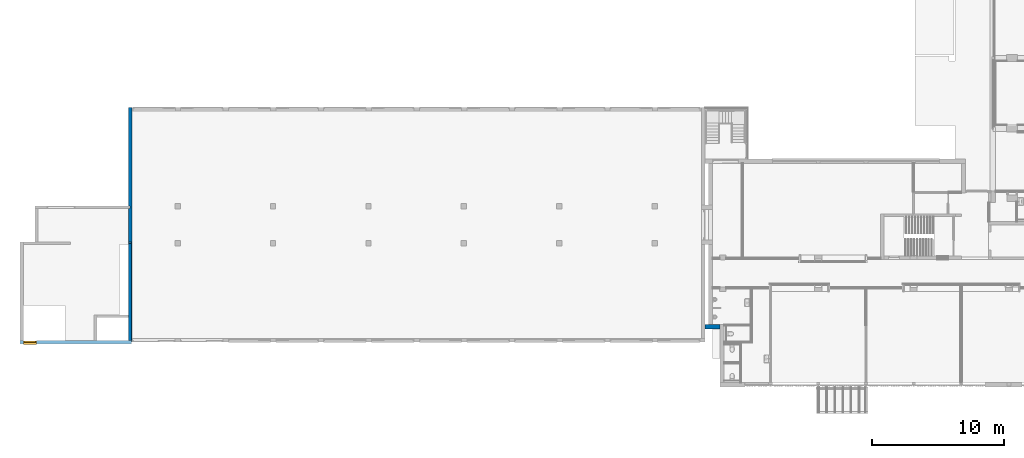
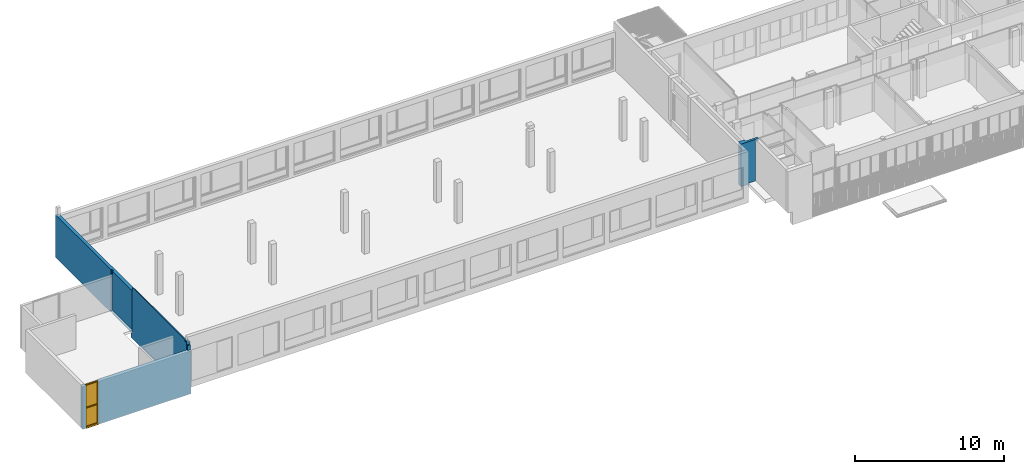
# One storey, part 49 of 117: 3 walls, 1 window, 1 opening, plus 1 element that does not belong to this part.
"""IFC2X3 building model written with IfcOpenShell, lengths in millimetres."""

from ifc_helpers import new_model, entity, si_unit, converted_unit, derived_unit, money_unit, direction, frame, origin_with_axes, place, context, subcontext, project, spatial, open_shell, faceted_brep, surface_model, material, type_object, element, fill, save


model = new_model("IFC2X3")

# Units and contexts
model_context = context("Model", 3, precision=0.01, world=origin_with_axes(), true_north=direction((0.0, 1.0)))
body_context = subcontext(model_context, "Body", "Model", "MODEL_VIEW")
ifc_project = project(units=[si_unit("LENGTHUNIT", "METRE", prefix="MILLI"), si_unit("AREAUNIT", "SQUARE_METRE"), si_unit("VOLUMEUNIT", "CUBIC_METRE"), converted_unit("PLANEANGLEUNIT", "DEGREE", entity("IfcPlaneAngleMeasure", 0.0174532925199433), si_unit("PLANEANGLEUNIT", "RADIAN"), dimensions=[0, 0, 0, 0, 0, 0, 0]), money_unit("EUR"), converted_unit("TIMEUNIT", "Year", entity("IfcTimeMeasure", 31557600.0), si_unit("TIMEUNIT", "SECOND"), dimensions=[0, 0, 1, 0, 0, 0, 0]), si_unit("MASSUNIT", "GRAM", prefix="KILO"), si_unit("THERMODYNAMICTEMPERATUREUNIT", "DEGREE_CELSIUS"), si_unit("LUMINOUSINTENSITYUNIT", "LUMEN"), si_unit("ENERGYUNIT", "JOULE", prefix="MEGA"), derived_unit("THERMALCONDUCTANCEUNIT", [(si_unit("POWERUNIT", "WATT"), 1), (si_unit("LENGTHUNIT", "METRE"), -1), (si_unit("THERMODYNAMICTEMPERATUREUNIT", "KELVIN"), -1)]), derived_unit("SPECIFICHEATCAPACITYUNIT", [(si_unit("ENERGYUNIT", "JOULE"), 1), (si_unit("MASSUNIT", "GRAM", prefix="KILO"), -1), (si_unit("THERMODYNAMICTEMPERATUREUNIT", "KELVIN"), -1)]), derived_unit("MASSDENSITYUNIT", [(si_unit("MASSUNIT", "GRAM", prefix="KILO"), 1), (si_unit("VOLUMEUNIT", "CUBIC_METRE"), -1)])], contexts=[model_context])

# Site, building, storey
site_placement = place(None, origin_with_axes())
site = spatial("IfcSite", under=ifc_project, at=site_placement, Name="Site", CompositionType="ELEMENT")
building_placement = place(site_placement, origin_with_axes())
building = spatial("IfcBuilding", under=site, at=building_placement, Name="Naam gebouw", CompositionType="ELEMENT")
storey_placement = place(building_placement, frame((0.0, 0.0, 4150.0), z_axis=(0.0, 0.0, 1.0), x_axis=(1.0, 0.0, 0.0)))
storey = spatial("IfcBuildingStorey", under=building, at=storey_placement, Name="1e verdieping N", CompositionType="ELEMENT", Elevation=4150.0)

# Walls
ifc_material = material(Name="ALG - CONSTRUCTIEF")
wall_type_1 = type_object("IfcWallType", Name="ALG - CONSTRUCTIEF 200", PredefinedType="NOTDEFINED")
wall_1_placement = place(storey_placement, frame((-44749.99999999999, 6365.575024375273, -1200.0), z_axis=(0.0, 0.0, 1.0), x_axis=(0.0, 1.0, 0.0)))
element("IfcWall", 1, at=wall_1_placement, inside=storey, type_object=wall_type_1, material=ifc_material, Name="_Wand-x", context=body_context, shape_type="Brep", body=[
    faceted_brep([(7599.99999997, 100.0000000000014, 720.0000000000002), (7599.99999997, 100.0000000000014, 4040.0), (7599.99999997, -100.0000000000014, 4040.0), (7599.99999997, -100.0000000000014, 720.0000000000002), (7500.000034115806, 100.0000000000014, 4220.0), (7500.000012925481, 100.0000000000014, 4040.0), (7500.000000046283, 100.0000000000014, 720.0000000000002), (7500.000000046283, 100.0000000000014, 520.0), (7699.99999997, 100.0000000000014, 520.0), (7699.99999997, 100.0000000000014, 0.0), (250.0, 100.0000000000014, 0.0), (250.0, 100.0000000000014, 4220.0), (399.9647694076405, 100.0000000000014, 4220.0), (399.964769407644, 100.0000000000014, 4040.0), (443.9191925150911, 100.0000000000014, 4040.0), (443.9191925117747, 100.0000000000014, 4220.0), (399.9650091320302, -100.0000000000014, 4040.0), (7500.000013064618, 94.6057256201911, 4040.0), (399.9650091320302, -100.0000000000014, 4220.0), (250.0, -100.0000000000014, 4220.0), (250.0, -100.0000000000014, 3500.0), (250.0, -100.0000000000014, 719.9999999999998), (250.0, -100.0000000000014, 0.0), (7699.99999997, -100.0000000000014, 0.0), (7699.99999997, -100.0000000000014, 520.0), (7500.000000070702, -100.0000000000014, 520.0), (7500.000000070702, -100.0000000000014, 720.0000000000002), (7500.000013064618, 94.6057256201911, 4220.0)], [[[0, 1, 2, 3]], [[4, 5, 1, 0, 6, 7, 8, 9, 10, 11, 12, 13, 14, 15]], [[13, 16, 2, 1, 5, 17, 14]], [[2, 16, 18, 19, 20, 21, 22, 23, 24, 25, 26, 3]], [[6, 0, 3, 26]], [[5, 4, 27, 17]], [[6, 26, 25, 7]], [[7, 25, 24, 8]], [[9, 8, 24, 23]], [[9, 23, 22, 10]], [[22, 21, 20, 19, 11, 10]], [[19, 18, 12, 11]], [[13, 12, 18, 16]], [[17, 27, 15, 14]], [[15, 27, 4]]]),
])
wall_type_2 = type_object("IfcWallType", Name="ALG - CONSTRUCTIEF 330", PredefinedType="NOTDEFINED")
wall_2_placement = place(storey_placement, frame((100.0000479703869, 7835.779842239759, -99.99999999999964), z_axis=(0.0, 0.0, 1.0), x_axis=(-1.0, 0.0, 0.0)))
element("IfcWall", 2, at=wall_2_placement, inside=storey, type_object=wall_type_2, material=ifc_material, Name="_Wand-x", context=body_context, shape_type="Brep", body=[
    faceted_brep([(330.0000000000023, 329.9999999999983, 3300.0), (330.0000000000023, 329.9999999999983, 99.99999999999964), (330.0000000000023, 0.0, 99.99999999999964), (330.0000000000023, 0.0, 3300.0), (330.0000000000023, 140.190599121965, 3300.0), (870.0761531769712, 329.9999999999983, 0.0), (870.0761531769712, 329.9999999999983, 99.99999999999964), (100.0000479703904, 329.9999999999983, 3300.0), (100.0000479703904, 329.9999999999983, 3500.0), (1450.000047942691, 329.9999999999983, 3500.0), (1450.000047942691, 329.9999999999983, 0.0), (870.0761531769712, 0.0, 99.99999999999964), (870.0761531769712, 0.0, 0.0), (1450.000047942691, 0.0, 0.0), (1450.000047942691, 0.0, 3500.0), (984.4276874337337, 0.0, 3500.0), (984.4276874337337, 0.0, 3300.0), (984.4276874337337, 140.190599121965, 3300.0), (100.0000479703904, 140.190599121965, 3300.0), (100.0000479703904, 140.190599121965, 3500.0), (984.4276874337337, 140.190599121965, 3500.0)], [[[0, 1, 2, 3, 4]], [[5, 6, 1, 0, 7, 8, 9, 10]], [[6, 11, 2, 1]], [[2, 11, 12, 13, 14, 15, 16, 3]], [[17, 4, 3, 16]], [[4, 18, 7, 0]], [[5, 12, 11, 6]], [[18, 19, 8, 7]], [[19, 20, 15, 14, 9, 8]], [[10, 9, 14, 13]], [[13, 12, 5, 10]], [[17, 16, 15, 20]], [[17, 20, 19, 18, 4]]]),
])
wall_type_3 = type_object("IfcWallType", Name="ALG - CONSTRUCTIEF 250", PredefinedType="NOTDEFINED")
wall_3_placement = place(storey_placement, frame((-44850.00000015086, 6765.57494721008, -790.0), z_axis=(0.0, 0.0, 1.0), x_axis=(0.0, 1.0, 0.0)))
element("IfcWall", 3, at=wall_3_placement, inside=storey, type_object=wall_type_3, material=ifc_material, Name="_Wand-x", context=body_context, shape_type="Brep", body=[
    faceted_brep([(-249.9999035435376, -250.0, 3500.0), (-249.9999035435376, -250.0, 0.0), (17450.00007716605, -250.0, 0.0), (17450.00007716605, -250.0, 3500.0), (17200.00007716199, -250.0, 109.9999999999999), (7300.000077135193, -250.0, 110.0000000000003), (9.64564783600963e-05, -250.0, 110.0000000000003), (9.645647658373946e-05, -250.0, 309.9999999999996), (7300.000077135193, -250.0, 309.9999999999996), (17200.00007716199, -250.0, 310.0000000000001), (-250.0000000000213, 0.0, 3500.0), (-250.0000000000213, 0.0, 0.0), (1599.930196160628, 0.0, 0.0), (1599.930196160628, -200.0000001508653, 0.0), (1799.930196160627, -200.0000001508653, 0.0), (1799.930196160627, 0.0, 0.0), (7100.000077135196, 0.0, 0.0), (7100.000077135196, -200.0000001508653, 0.0), (7300.000077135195, -200.0000001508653, 0.0), (7300.000077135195, 0.0, 0.0), (9825.000077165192, 0.0, 0.0), (9825.000077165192, -100.000000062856, 0.0), (10025.00007716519, -100.000000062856, 0.0), (10025.00007716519, 0.0, 0.0), (17450.00007716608, 0.0, 0.0), (17450.00007716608, 0.0, 3500.0), (1799.930196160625, 0.0, 3500.0), (1799.930196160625, -200.0000001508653, 3500.0), (1599.930196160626, -200.0000001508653, 3500.0), (1599.930196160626, 0.0, 3500.0), (10025.00007716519, 0.0, 3500.0), (10025.00007716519, -100.0000000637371, 3500.0), (9825.000077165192, -100.0000000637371, 3500.0), (9825.000077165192, 0.0, 3500.0), (17200.00007716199, -199.9999999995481, 109.9999999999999), (9825.00007716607, -200.0000000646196, 109.9999999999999), (9825.000077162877, -100.000000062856, 109.9999999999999), (9825.000077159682, 0.0, 109.9999999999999), (7300.000077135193, 0.0, 110.0000000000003), (7300.000077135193, -200.0000001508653, 110.0000000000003), (7100.000077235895, -200.0000001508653, 109.9999999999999), (1799.930196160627, -200.0000001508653, 109.9999999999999), (1599.930196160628, -200.0000001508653, 109.9999999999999), (7.71651809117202e-05, -200.0000001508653, 109.9999999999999), (7.71651809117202e-05, -200.0000001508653, 310.0000000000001), (1599.930196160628, -200.0000001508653, 310.0000000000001), (1799.930196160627, -200.0000001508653, 310.0000000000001), (7100.000077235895, -200.0000001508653, 310.0000000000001), (7100.000077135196, 0.0, 309.9999999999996), (9825.000077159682, 0.0, 310.0000000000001), (9825.000077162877, -100.000000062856, 310.0000000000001), (9825.00007716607, -200.0000000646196, 310.0000000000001), (17200.00007716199, -199.9999999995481, 310.0000000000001), (1599.930196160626, -200.0000001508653, 3090.0), (1799.930196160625, -200.0000001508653, 3090.0), (9825.000077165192, -100.0000000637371, 3090.0), (10025.00007716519, -100.0000000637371, 3090.0), (10025.00007716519, -100.000000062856, 309.9999999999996)], [[[0, 1, 2, 3], [4, 5, 6, 7, 8, 9]], [[1, 0, 10, 11]], [[1, 11, 12, 13, 14, 15, 16, 17, 18, 19, 20, 21, 22, 23, 24, 2]], [[25, 3, 2, 24]], [[26, 27, 28, 29, 10, 0, 3, 25, 30, 31, 32, 33]], [[6, 5, 4, 34, 35, 36, 37, 38, 39, 40, 41, 42, 43]], [[44, 7, 6, 43]], [[9, 8, 7, 44, 45, 46, 47, 48, 49, 50, 51, 52]], [[34, 4, 9, 52]], [[11, 10, 29, 12]], [[53, 45, 42, 13, 12, 29, 28]], [[13, 42, 41, 14]], [[14, 41, 46, 54, 27, 26, 15]], [[33, 49, 48, 16, 15, 26]], [[48, 47, 40, 17, 16]], [[17, 40, 39, 18]], [[18, 39, 38, 19]], [[19, 38, 37, 20]], [[20, 37, 36, 21]], [[21, 36, 50, 55, 32, 31, 56, 57, 22]], [[22, 57, 56, 31, 30, 23]], [[24, 23, 30, 25]], [[54, 46, 45, 53, 28, 27]], [[55, 50, 49, 33, 32]], [[52, 51, 35, 34]], [[36, 35, 51, 50]], [[41, 40, 47, 46]], [[43, 42, 45, 44]]]),
])

# Wall, opening, window
wall_4_placement = place(storey_placement, frame((-44649.99999999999, 6365.575024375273, -1200.0), z_axis=(0.0, 0.0, 1.0), x_axis=(-1.0, 0.0, 0.0)))
wall_4 = element("IfcWall", 4, at=wall_4_placement, inside=storey, type_object=wall_type_3, material=ifc_material, Name="_Wand-x", context=body_context, shape_type="Brep", body=[
    faceted_brep([(8149.999999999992, -100.0000000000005, 3499.999999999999), (8149.999999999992, -250.0000000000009, 3499.999999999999), (8399.99999999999, -250.0000000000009, 3500.0), (8399.99999999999, 0.0, 3500.0), (8149.999999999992, 0.0, 3499.999999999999), (8149.999999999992, -100.0000000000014, 0.0), (8149.999999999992, -250.0000000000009, 0.0), (8149.999999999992, 0.0, 0.0), (8399.99999999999, -250.0000000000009, 0.0), (8399.99999999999, -250.0000000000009, 719.9999999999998), (8399.99999999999, 0.0, 719.9999999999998), (8399.99999999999, 0.0, 0.0)], [[[0, 1, 2, 3, 4]], [[5, 6, 1, 0, 4, 7]], [[1, 6, 8, 9, 2]], [[10, 3, 2, 9, 8, 11]], [[3, 10, 11, 7, 4]], [[6, 5, 7, 11, 8]]]),
    faceted_brep([(7149.999999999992, -250.0000000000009, 0.0), (7149.999999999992, -250.0000000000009, 3499.999999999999), (0.0, -250.0, 3500.0), (0.0, -250.0, 0.0), (7149.999999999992, -100.0000000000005, 3499.999999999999), (7149.999999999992, -100.0000000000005, 0.0), (7149.999999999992, 0.0, 0.0), (7149.999999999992, 0.0, 3499.999999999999), (0.0, 0.0, 3500.0), (0.0, 0.0, 0.0)], [[[0, 1, 2, 3]], [[4, 1, 0, 5, 6, 7]], [[1, 4, 7, 8, 2]], [[8, 9, 3, 2]], [[5, 0, 3, 9, 6]], [[6, 9, 8, 7]]]),
])
opening_placement = place(wall_4_placement, frame((7649.999999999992, 0.0, 0.0), z_axis=(0.0, 0.0, 1.0), x_axis=(1.0, 0.0, 0.0)))
opening = element("IfcOpeningElement", 5, at=opening_placement, cuts=wall_4, Name="_Merk-x", context=body_context, shape_type="Brep", body=[
    faceted_brep([(-500.0, -100.0000000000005, 0.0), (-500.0, -100.0000000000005, 3499.999999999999), (-500.0, 1.00000000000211, 3499.999999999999), (-500.0, 1.00000000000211, 0.0), (-500.0, -251.0000000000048, 0.0), (-500.0, -251.0000000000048, 3499.999999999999), (500.0, -100.0000000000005, 3499.999999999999), (500.0, 1.00000000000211, 3499.999999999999), (500.0, -251.0000000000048, 3499.999999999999), (500.0, 1.000000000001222, 0.0), (500.0, -100.0000000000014, 0.0), (500.0, -251.0000000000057, 0.0)], [[[0, 1, 2, 3]], [[1, 0, 4, 5]], [[6, 7, 2, 1, 5, 8]], [[7, 9, 3, 2]], [[0, 3, 9, 10, 11, 4]], [[5, 4, 11, 8]], [[6, 10, 9, 7]], [[10, 6, 8, 11]]]),
])
window_style = type_object("IfcWindowStyle", Name="R1 27", ConstructionType="NOTDEFINED", OperationType="DOUBLE_PANEL_HORIZONTAL", ParameterTakesPrecedence=False, Sizeable=False)
window_placement = place(opening_placement, frame((500.0, 0.0, 0.0), z_axis=(0.0, 0.0, 1.0), x_axis=(-1.0, 0.0, 0.0)))
window = element("IfcWindow", 6, at=window_placement, inside=storey, type_object=window_style, Name="_Merk-x", ObjectType="WINDOW", OverallHeight=3500.0, OverallWidth=1000.0, context=body_context, shape_type="SurfaceModel", body=[
    surface_model("IfcShellBasedSurfaceModel", [(0.0, 99.00000000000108, 49.99999999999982), (0.0, 99.00000000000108, 40.00000000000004), (1000.0, 99.00000000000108, 40.00000000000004), (1000.0, 99.00000000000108, 50.00000000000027), (0.0, -29.99999999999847, 27.00000000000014), (1000.0, -29.99999999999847, 27.00000000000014), (0.0, -29.99999999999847, 7.000000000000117), (1000.0, -29.99999999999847, 7.000000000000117), (0.0, -19.99999999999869, 16.9999999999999), (1000.0, -19.99999999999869, 16.9999999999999)], [open_shell([[[0, 1, 2, 3]], [[1, 4, 5, 2]], [[4, 6, 7, 5]], [[6, 8, 9, 7]]])]),
    faceted_brep([(67.00000000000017, 100.0000000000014, 1566.5), (67.00000000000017, 214.0000000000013, 1566.5), (67.00000000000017, 214.0000000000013, 1633.500000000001), (67.00000000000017, 100.0000000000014, 1633.500000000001), (67.00000000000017, 100.0000000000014, 67.00000000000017), (67.00000000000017, 214.0000000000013, 67.00000000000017), (0.0, 214.0000000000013, 67.00000000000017), (0.0, 214.0000000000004, 3432.999999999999), (67.00000000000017, 214.0000000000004, 3432.999999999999), (67.00000000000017, 100.0000000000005, 3432.999999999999), (0.0, 100.0000000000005, 3432.999999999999), (0.0, 100.0000000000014, 67.00000000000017)], [[[0, 1, 2, 3]], [[4, 5, 1, 0]], [[1, 5, 6, 7, 8, 2]], [[3, 2, 8, 9]], [[0, 3, 9, 10, 11, 4]], [[11, 6, 5, 4]], [[10, 7, 6, 11]], [[9, 8, 7, 10]]]),
    faceted_brep([(932.9999999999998, 100.0000000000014, 67.00000000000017), (932.9999999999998, 214.0000000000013, 67.00000000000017), (1000.0, 214.0000000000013, 67.00000000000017), (1000.0, 100.0000000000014, 67.00000000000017), (932.9999999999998, 100.0000000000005, 1566.5), (932.9999999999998, 214.0000000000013, 1566.5), (932.9999999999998, 214.0000000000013, 1633.500000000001), (932.9999999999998, 214.0000000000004, 3432.999999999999), (1000.0, 214.0000000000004, 3432.999999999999), (1000.0, 100.0000000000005, 3432.999999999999), (932.9999999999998, 100.0000000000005, 3432.999999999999), (932.9999999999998, 100.0000000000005, 1633.500000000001)], [[[0, 1, 2, 3]], [[4, 5, 1, 0]], [[1, 5, 6, 7, 8, 2]], [[3, 2, 8, 9]], [[0, 3, 9, 10, 11, 4]], [[11, 6, 5, 4]], [[10, 7, 6, 11]], [[9, 8, 7, 10]]]),
    faceted_brep([(67.00000000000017, 100.0000000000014, 1566.5), (67.00000000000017, 214.0000000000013, 1566.5), (932.9999999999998, 214.0000000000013, 1566.5), (932.9999999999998, 100.0000000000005, 1566.5), (67.00000000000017, 100.0000000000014, 1633.500000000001), (67.00000000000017, 214.0000000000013, 1633.500000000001), (932.9999999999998, 214.0000000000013, 1633.500000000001), (932.9999999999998, 100.0000000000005, 1633.500000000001)], [[[0, 1, 2, 3]], [[4, 5, 1, 0]], [[1, 5, 6, 2]], [[3, 2, 6, 7]], [[0, 3, 7, 4]], [[7, 6, 5, 4]]]),
    faceted_brep([(67.00000000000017, 100.0000000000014, 67.00000000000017), (67.00000000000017, 214.0000000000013, 67.00000000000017), (0.0, 214.0000000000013, 67.00000000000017), (0.0, 100.0000000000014, 67.00000000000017), (932.9999999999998, 100.0000000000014, 67.00000000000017), (932.9999999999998, 214.0000000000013, 67.00000000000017), (1000.0, 214.0000000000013, 67.00000000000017), (1000.0, 214.0000000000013, 0.0), (0.0, 214.0000000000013, 0.0), (0.0, 100.0000000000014, 0.0), (1000.0, 100.0000000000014, 0.0), (1000.0, 100.0000000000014, 67.00000000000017)], [[[0, 1, 2, 3]], [[4, 5, 1, 0]], [[1, 5, 6, 7, 8, 2]], [[3, 2, 8, 9]], [[0, 3, 9, 10, 11, 4]], [[11, 6, 5, 4]], [[10, 7, 6, 11]], [[9, 8, 7, 10]]]),
    faceted_brep([(932.9999999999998, 100.0000000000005, 3432.999999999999), (932.9999999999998, 214.0000000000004, 3432.999999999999), (1000.0, 214.0000000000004, 3432.999999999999), (1000.0, 100.0000000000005, 3432.999999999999), (67.00000000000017, 100.0000000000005, 3432.999999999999), (67.00000000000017, 214.0000000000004, 3432.999999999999), (0.0, 214.0000000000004, 3432.999999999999), (0.0, 214.0000000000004, 3499.999999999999), (1000.0, 214.0000000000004, 3499.999999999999), (1000.0, 100.0000000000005, 3499.999999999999), (0.0, 100.0000000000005, 3499.999999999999), (0.0, 100.0000000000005, 3432.999999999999)], [[[0, 1, 2, 3]], [[4, 5, 1, 0]], [[1, 5, 6, 7, 8, 2]], [[3, 2, 8, 9]], [[0, 3, 9, 10, 11, 4]], [[11, 6, 5, 4]], [[10, 7, 6, 11]], [[9, 8, 7, 10]]]),
    surface_model("IfcShellBasedSurfaceModel", [(67.00000000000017, 150.0000000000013, 1633.500000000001), (932.9999999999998, 150.0000000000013, 1633.500000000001), (932.9999999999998, 150.0000000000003, 3432.999999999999), (67.00000000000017, 150.0000000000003, 3432.999999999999)], [open_shell([[[0, 1, 2, 3]]])]),
    surface_model("IfcShellBasedSurfaceModel", [(67.00000000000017, 170.0000000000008, 1633.500000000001), (67.00000000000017, 170.0000000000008, 3432.999999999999), (932.9999999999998, 170.0000000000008, 3432.999999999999), (932.9999999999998, 170.0000000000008, 1633.500000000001)], [open_shell([[[0, 1, 2, 3]]])]),
    faceted_brep([(67.00000000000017, 160.000000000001, 67.00000000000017), (67.00000000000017, 214.0000000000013, 67.00000000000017), (932.9999999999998, 214.0000000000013, 67.00000000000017), (932.9999999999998, 160.000000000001, 67.00000000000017), (67.00000000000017, 160.000000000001, 1566.5), (67.00000000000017, 214.0000000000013, 1566.5), (932.9999999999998, 214.0000000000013, 1566.5), (932.9999999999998, 160.000000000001, 1566.5)], [[[0, 1, 2, 3]], [[4, 5, 1, 0]], [[1, 5, 6, 2]], [[3, 2, 6, 7]], [[0, 3, 7, 4]], [[7, 6, 5, 4]]]),
])
fill(opening, window)

save(model, "model.ifc")
